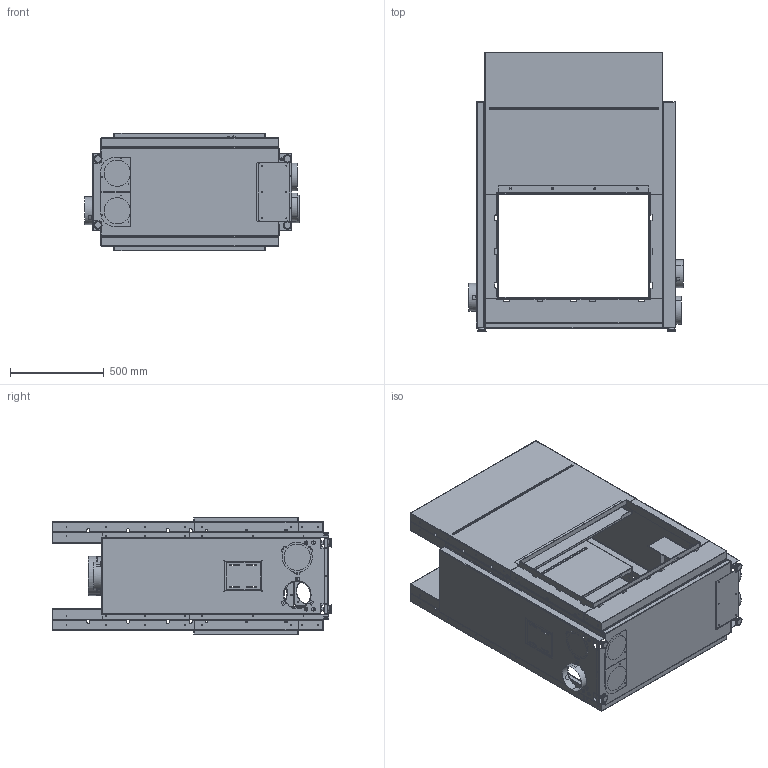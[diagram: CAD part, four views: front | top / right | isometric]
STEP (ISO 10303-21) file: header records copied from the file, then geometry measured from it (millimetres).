
FILE_DESCRIPTION (( 'STEP AP214' ), '1' );
FILE_NAME ('W80 52T.STEP', '2020-03-02T10:47:09', ( '' ), ( '' ), 'SwSTEP 2.0', 'SolidWorks 2018', '' );
FILE_SCHEMA (( 'AUTOMOTIVE_DESIGN' ));
Length unit declared in the file: millimetre
Products named in the file (1): W80 52T
Bounding box: 1141.5 x 1486.5 x 625.6 mm (x, y, z)
Volume: 14050214.3 mm3; surface area: 14290976.2 mm2
Topology: 65 solids, 65 shells, 3027 faces, 8049 edges, 5182 vertices
Faces by surface type: plane 1581, cylinder 1328, bspline 94, cone 24
Entity records: 133561 total; most frequent: CARTESIAN_POINT 21388, DIRECTION 16351, ORIENTED_EDGE 16090, EDGE_CURVE 8045, AXIS2_PLACEMENT_3D 5638, VERTEX_POINT 5182, LINE 5075, VECTOR 5075
